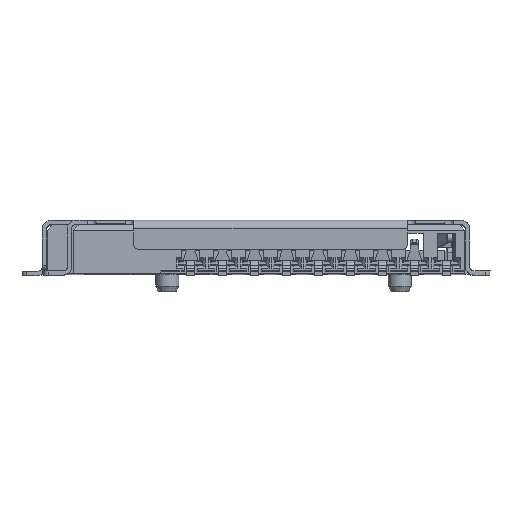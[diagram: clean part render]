
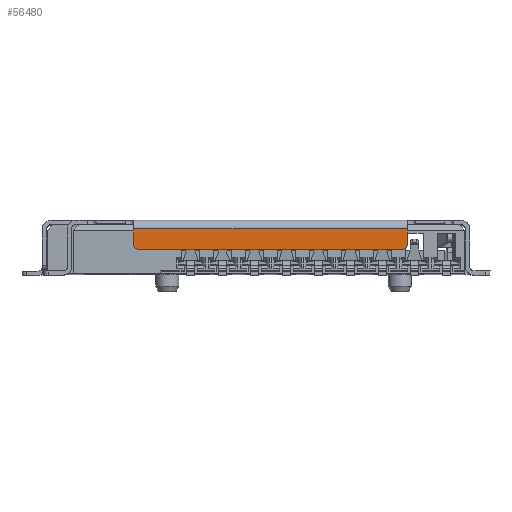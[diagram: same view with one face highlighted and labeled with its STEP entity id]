
A CAD part, top view. The second image highlights one B-rep face of the part: STEP entity #56480.
In plain terms, the highlighted planar face has unit normal (0, 0, 1).
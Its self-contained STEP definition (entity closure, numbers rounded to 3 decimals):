
#225 = EDGE_CURVE ( 'NONE', #58420, #6420, #14954, .T. ) ;
#1592 = FACE_OUTER_BOUND ( 'NONE', #33936, .T. ) ;
#1787 = CARTESIAN_POINT ( 'NONE',  ( -5.15, 1.55, 0.15 ) ) ;
#3178 = VECTOR ( 'NONE', #24718, 1000. ) ;
#5208 = VERTEX_POINT ( 'NONE', #26480 ) ;
#5818 = CIRCLE ( 'NONE', #60796, 0.15 ) ;
#6420 = VERTEX_POINT ( 'NONE', #52555 ) ;
#7981 = EDGE_CURVE ( 'NONE', #64087, #5208, #29828, .T. ) ;
#8413 = DIRECTION ( 'NONE',  ( 0., -1., 0. ) ) ;
#9311 = ORIENTED_EDGE ( 'NONE', *, *, #20784, .T. ) ;
#9386 = CARTESIAN_POINT ( 'NONE',  ( -0.45, 1.2, 0.15 ) ) ;
#10176 = VECTOR ( 'NONE', #8413, 1000. ) ;
#14954 = LINE ( 'NONE', #59145, #10176 ) ;
#15173 = CARTESIAN_POINT ( 'NONE',  ( 4.1, 0.85, 0.15 ) ) ;
#15593 = DIRECTION ( 'NONE',  ( 0., 0., 1. ) ) ;
#16995 = EDGE_CURVE ( 'NONE', #58420, #5208, #65759, .T. ) ;
#18433 = DIRECTION ( 'NONE',  ( 1., 0., 0. ) ) ;
#19845 = ORIENTED_EDGE ( 'NONE', *, *, #225, .T. ) ;
#20582 = ORIENTED_EDGE ( 'NONE', *, *, #56451, .T. ) ;
#20784 = EDGE_CURVE ( 'NONE', #6420, #40467, #5818, .T. ) ;
#21422 = VECTOR ( 'NONE', #18433, 1000. ) ;
#24718 = DIRECTION ( 'NONE',  ( 1., 0., 0. ) ) ;
#25390 = PLANE ( 'NONE',  #64014 ) ;
#26480 = CARTESIAN_POINT ( 'NONE',  ( 4.25, 1.55, 0.15 ) ) ;
#27197 = EDGE_CURVE ( 'NONE', #64087, #48042, #47365, .T. ) ;
#27860 = AXIS2_PLACEMENT_3D ( 'NONE', #50240, #51337, #46026 ) ;
#29828 = LINE ( 'NONE', #64144, #39423 ) ;
#33936 = EDGE_LOOP ( 'NONE', ( #47736, #46872, #19845, #9311, #20582, #37418 ) ) ;
#36075 = CARTESIAN_POINT ( 'NONE',  ( 4.25, 1., 0.15 ) ) ;
#36278 = DIRECTION ( 'NONE',  ( 1., 0., 0. ) ) ;
#37384 = LINE ( 'NONE', #65211, #3178 ) ;
#37418 = ORIENTED_EDGE ( 'NONE', *, *, #27197, .F. ) ;
#39423 = VECTOR ( 'NONE', #39450, 1000. ) ;
#39450 = DIRECTION ( 'NONE',  ( 0., 1., 0. ) ) ;
#40467 = VERTEX_POINT ( 'NONE', #42031 ) ;
#42031 = CARTESIAN_POINT ( 'NONE',  ( -5., 0.85, 0.15 ) ) ;
#46026 = DIRECTION ( 'NONE',  ( -1., 0., 0. ) ) ;
#46872 = ORIENTED_EDGE ( 'NONE', *, *, #16995, .F. ) ;
#47365 = CIRCLE ( 'NONE', #27860, 0.15 ) ;
#47736 = ORIENTED_EDGE ( 'NONE', *, *, #7981, .T. ) ;
#48042 = VERTEX_POINT ( 'NONE', #15173 ) ;
#48893 = CARTESIAN_POINT ( 'NONE',  ( 4.438, 1.55, 0.15 ) ) ;
#50240 = CARTESIAN_POINT ( 'NONE',  ( 4.1, 1., 0.15 ) ) ;
#50940 = CARTESIAN_POINT ( 'NONE',  ( -5., 1., 0.15 ) ) ;
#51337 = DIRECTION ( 'NONE',  ( 0., 0., -1. ) ) ;
#52555 = CARTESIAN_POINT ( 'NONE',  ( -5.15, 1., 0.15 ) ) ;
#54900 = DIRECTION ( 'NONE',  ( 1., 0., 0. ) ) ;
#56451 = EDGE_CURVE ( 'NONE', #40467, #48042, #37384, .T. ) ;
#56480 = ADVANCED_FACE ( 'NONE', ( #1592 ), #25390, .T. ) ;
#58420 = VERTEX_POINT ( 'NONE', #1787 ) ;
#59145 = CARTESIAN_POINT ( 'NONE',  ( -5.15, 1.425, 0.15 ) ) ;
#60793 = DIRECTION ( 'NONE',  ( 0., 0., 1. ) ) ;
#60796 = AXIS2_PLACEMENT_3D ( 'NONE', #50940, #15593, #36278 ) ;
#64014 = AXIS2_PLACEMENT_3D ( 'NONE', #9386, #60793, #54900 ) ;
#64087 = VERTEX_POINT ( 'NONE', #36075 ) ;
#64144 = CARTESIAN_POINT ( 'NONE',  ( 4.25, 1.2, 0.15 ) ) ;
#65211 = CARTESIAN_POINT ( 'NONE',  ( -0.45, 0.85, 0.15 ) ) ;
#65759 = LINE ( 'NONE', #48893, #21422 ) ;
